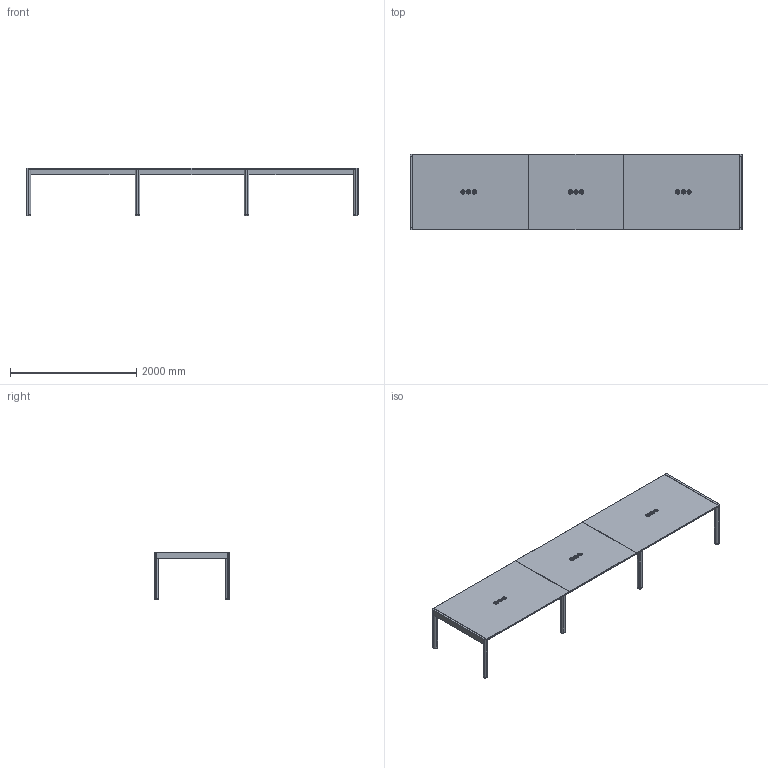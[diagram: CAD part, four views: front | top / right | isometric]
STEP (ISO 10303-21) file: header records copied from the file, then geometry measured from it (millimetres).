
FILE_DESCRIPTION( ('This file contains a STEP AP42 implementation' ,'as created by ZW3D STEP Interface translator.') ,'2;1' );
FILE_NAME( 'Rive - Table de réunion XXL - 525x120x75.stp' ,'24 913. 85011', (''), ('ZWCAD Software Co.'), 'Version 1.0', 'ZW3D to STEP translator', '' );
FILE_SCHEMA(('AUTOMOTIVE_DESIGN { 1 0 10303 214 1 1 1 1 }'));
Length unit declared in the file: millimetre
Products named in the file (4): 0; RIVE - TABLE DE REUNION XXL; Triple Disq60 Legrand; prise élcetrique encastré LEGRANG
Assembly tree (6 placements, depth 3):
  0
  RIVE - TABLE DE REUNION XXL
    Triple Disq60 Legrand  x3
      prise élcetrique encastré LEGRANG
Bounding box: 5250 x 1200 x 754 mm (x, y, z)
Volume: 214066883.2 mm3; surface area: 30418102 mm2
Topology: 31 solids, 31 shells, 509 faces, 1014 edges, 621 vertices
Faces by surface type: plane 336, cylinder 124, sphere 21, torus 20, cone 8
Full cylindrical faces by diameter (mm): 4 x9, 5 x27, 38 x9, 39 x9, 55 x9, 67 x9
Entity records: 10504 total; most frequent: DIRECTION 1732, CARTESIAN_POINT 1704, ORIENTED_EDGE 1610, EDGE_CURVE 805, VECTOR 634, LINE 634, AXIS2_PLACEMENT_3D 549, VERTEX_POINT 485
